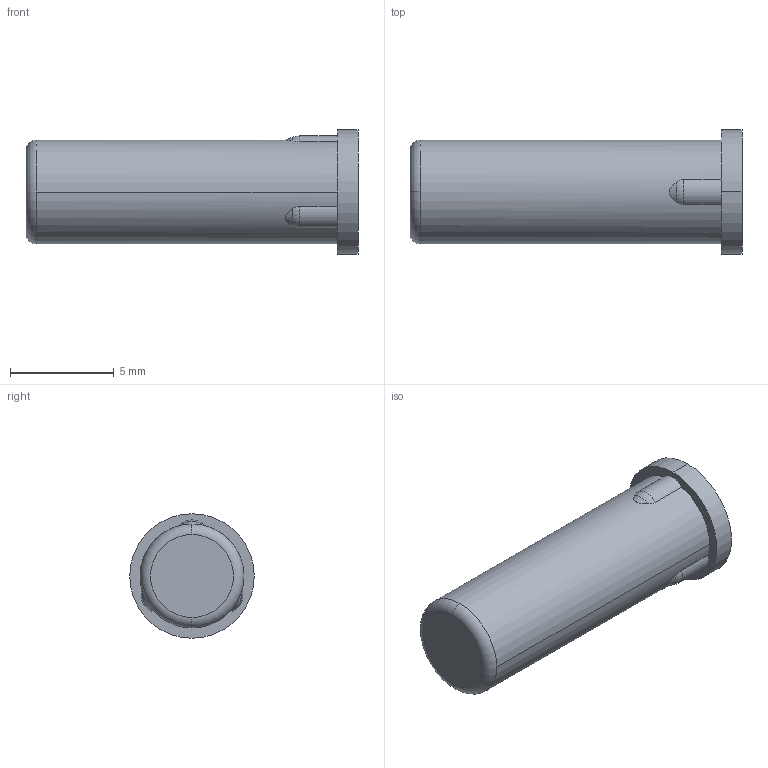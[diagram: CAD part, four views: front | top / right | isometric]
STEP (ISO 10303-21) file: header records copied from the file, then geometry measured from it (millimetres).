
FILE_DESCRIPTION(('Creo Elements/Direct Modeling STEP Export'),'2;1');
FILE_NAME('H08-0037-CL911-00_BB-050S.stp','2021-09-07T14:18:45',(''),(''),'Creo Elements/Direct Modeling STEP processor for AP214 (Solid Model)','Creo Elements/Direct Modeling 20.3B 05-Dec-2020 (C) Parametric Technology GmbH','');
FILE_SCHEMA(('AUTOMOTIVE_DESIGN { 1 0 10303 214 1 1 1 1 }'));
Length unit declared in the file: millimetre
Products named in the file (2): BB-050S
Assembly tree (1 placements, depth 2):
  BB-050S
    BB-050S
Bounding box: 16 x 6 x 6 mm (x, y, z)
Volume: 323.1 mm3; surface area: 308.1 mm2
Topology: 1 solids, 1 shells, 19 faces, 96 edges, 81 vertices
Faces by surface type: cylinder 7, torus 5, plane 4, cone 3
Entity records: 1160 total; most frequent: CARTESIAN_POINT 305, ORIENTED_EDGE 192, DIRECTION 156, EDGE_CURVE 96, VERTEX_POINT 81, VECTOR 54, LINE 54, AXIS2_PLACEMENT_3D 51
